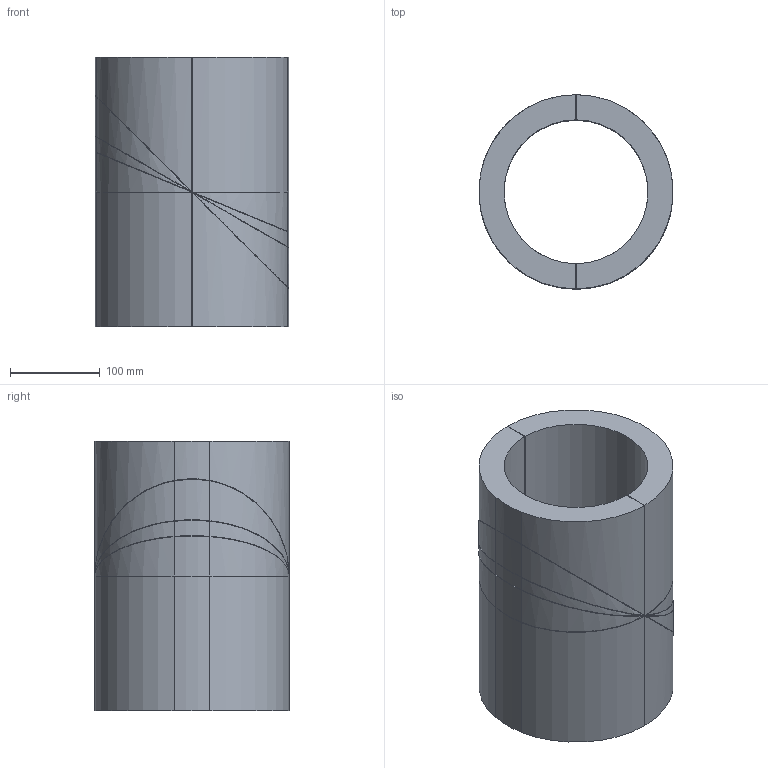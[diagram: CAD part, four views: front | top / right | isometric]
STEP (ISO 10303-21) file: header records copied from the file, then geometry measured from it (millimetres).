
FILE_DESCRIPTION(/* description */ (''),/* implementation_level */ '2;1');
FILE_NAME(/* name */ 'Z:\Geberit\Export\NewStep\312820.stp',/* time_stamp */ '2014-04-01T20:12:44+02:00',/* author */ ('bruh'),/* organization */ (''),/* preprocessor_version */ 'ST-DEVELOPER v15.2',/* originating_system */ 'Autodesk Inventor 2014',/* authorisation */ '');
FILE_SCHEMA (('AUTOMOTIVE_DESIGN { 1 0 10303 214 3 1 1 }'));
Length unit declared in the file: millimetre
Products named in the file (1): 312820
Bounding box: 215.23 x 216 x 300 mm (x, y, z)
Volume: 4908621.6 mm3; surface area: 571391.1 mm2
Topology: 10 solids, 10 shells, 116 faces, 288 edges, 192 vertices
Faces by surface type: plane 56, cylinder 40, bspline 20
Entity records: 3684 total; most frequent: CARTESIAN_POINT 721, DIRECTION 622, ORIENTED_EDGE 576, EDGE_CURVE 288, AXIS2_PLACEMENT_3D 237, VERTEX_POINT 192, LINE 148, VECTOR 148
